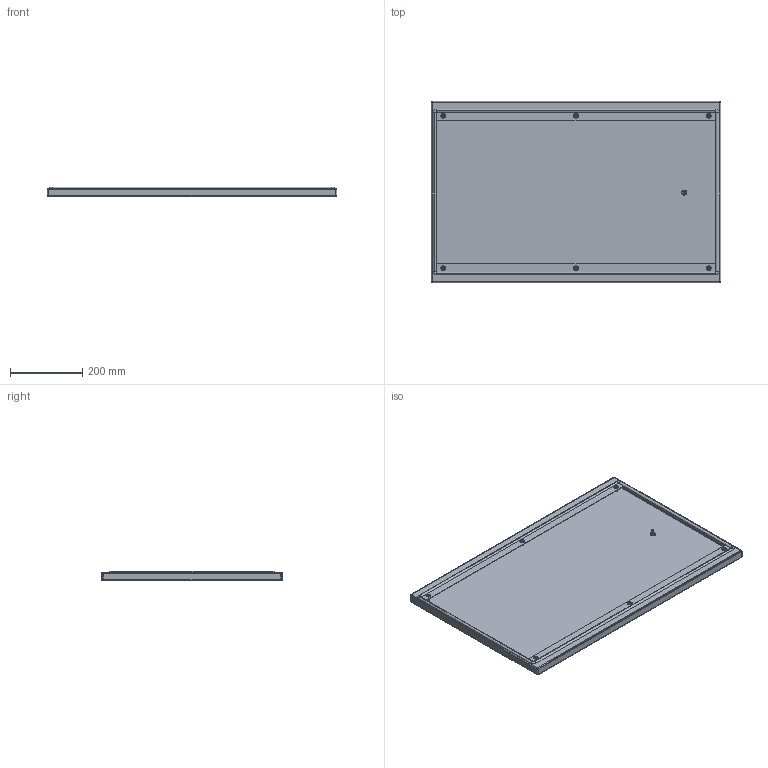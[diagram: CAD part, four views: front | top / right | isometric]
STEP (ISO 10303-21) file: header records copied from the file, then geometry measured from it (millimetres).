
FILE_DESCRIPTION (( 'STEP AP203' ), '1' );
FILE_NAME ('R 80.50 C Ïàíåëü êîíöåâàÿ íèæíåé ÷àñòè.STEP', '2013-01-14T08:30:01', ( 'Àëåêñàíäð' ), ( 'Ïðîâåíòî' ), 'SwSTEP 2.0', 'SolidWorks 2012', '' );
FILE_SCHEMA (( 'CONFIG_CONTROL_DESIGN' ));
Length unit declared in the file: millimetre
Products named in the file (1): R 80.50 C Ïàíåëü êîíöåâàÿ íèæíåé ÷àñòè
Bounding box: 800 x 500 x 27 mm (x, y, z)
Volume: 876230.5 mm3; surface area: 1102450.1 mm2
Topology: 3 solids, 3 shells, 199 faces, 431 edges, 264 vertices
Faces by surface type: cylinder 85, plane 52, torus 36, cone 18, sphere 8
Entity records: 5550 total; most frequent: DIRECTION 1103, CARTESIAN_POINT 887, ORIENTED_EDGE 846, AXIS2_PLACEMENT_3D 480, EDGE_CURVE 423, CIRCLE 280, VERTEX_POINT 264, EDGE_LOOP 249
